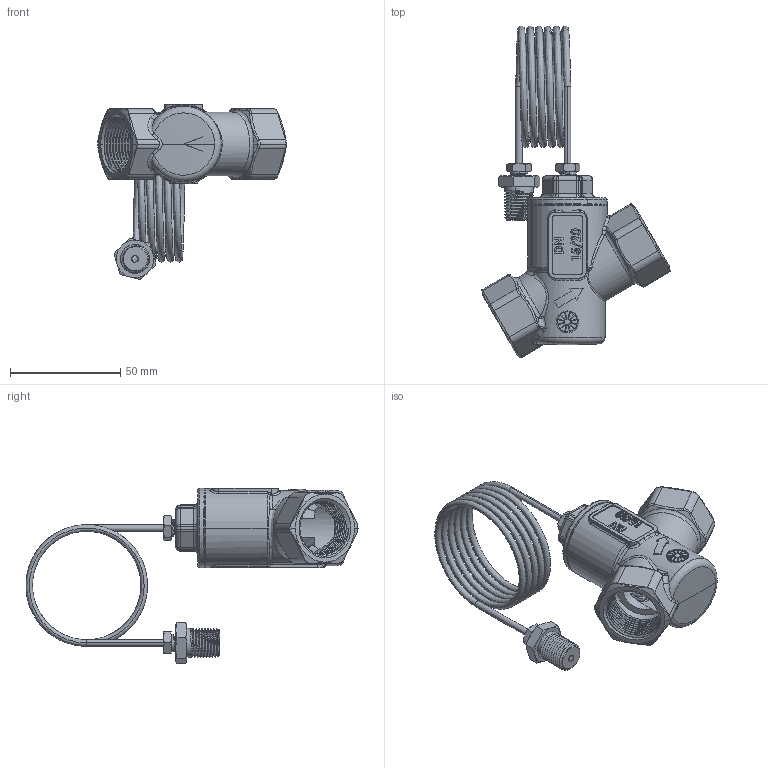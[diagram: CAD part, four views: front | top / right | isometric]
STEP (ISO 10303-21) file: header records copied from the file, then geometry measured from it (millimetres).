
FILE_DESCRIPTION (( 'STEP AP203' ), '1' );
FILE_NAME ('SDP.20 AHouse DN20 ISO FF.step', '2024-04-12T07:28:13', ( '' ), ( '' ), 'SwSTEP 2.0', 'SolidWorks 2023', '' );
FILE_SCHEMA (( 'CONFIG_CONTROL_DESIGN' ));
Length unit declared in the file: millimetre
Products named in the file (1): SDP.20 AHouse DN20 ISO FF
Bounding box: 85.65 x 150.88 x 79.69 mm (x, y, z)
Surface area: 34750 mm2 (no closed solid volume)
Topology: 0 solids, 13 shells, 738 faces, 2134 edges, 1378 vertices
Faces by surface type: cylinder 232, plane 231, bspline 129, torus 71, cone 57, sphere 18
Entity records: 43036 total; most frequent: CARTESIAN_POINT 25372, ORIENTED_EDGE 3801, DIRECTION 3311, EDGE_CURVE 2108, VERTEX_POINT 1374, AXIS2_PLACEMENT_3D 1238, VECTOR 835, LINE 835
